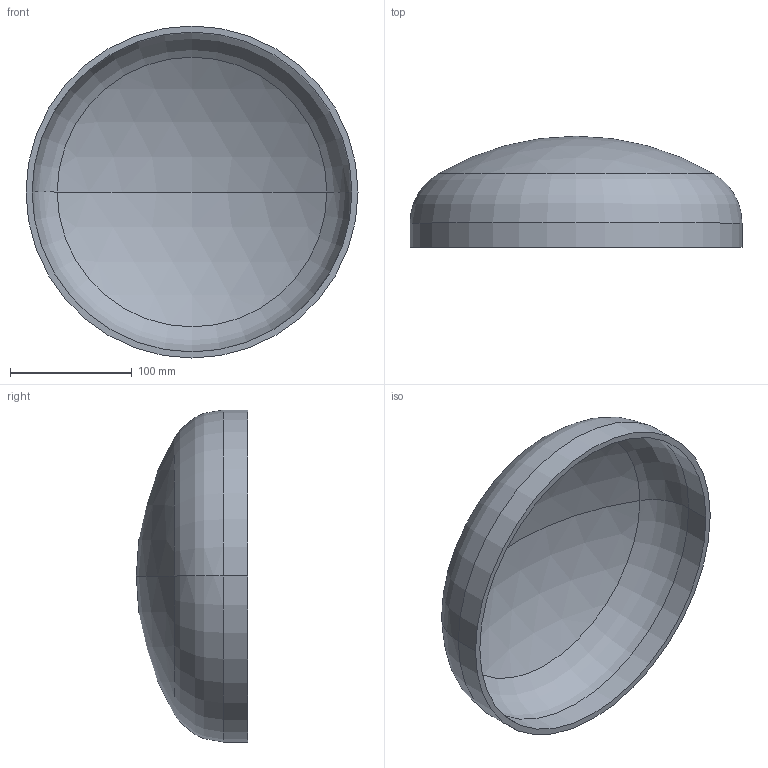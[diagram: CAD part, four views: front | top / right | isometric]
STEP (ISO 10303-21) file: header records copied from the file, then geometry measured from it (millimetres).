
FILE_DESCRIPTION (( 'STEP AP203' ), '1' );
FILE_NAME ('DIN 28013 Korbbogenform_-_Boden DIN 28013 - 273 x 20 - I - s=5.step', '2016-07-01T07:42:53', ( '' ), ( '' ), 'SwSTEP 2.0', 'SolidWorks 2013', '' );
FILE_SCHEMA (( 'CONFIG_CONTROL_DESIGN' ));
Length unit declared in the file: millimetre
Products named in the file (1): DIN 28013 Korbbogenform_-_Boden DIN 28013 - 273 x 20 - I - s=5
Bounding box: 273 x 91.46 x 273 mm (x, y, z)
Volume: 479860.7 mm3; surface area: 196206.3 mm2
Topology: 1 solids, 1 shells, 13 faces, 24 edges, 14 vertices
Faces by surface type: torus 4, cylinder 4, sphere 4, plane 1
Entity records: 407 total; most frequent: DIRECTION 72, CARTESIAN_POINT 52, ORIENTED_EDGE 48, AXIS2_PLACEMENT_3D 34, EDGE_CURVE 24, CIRCLE 20, EDGE_LOOP 14, VERTEX_POINT 14
